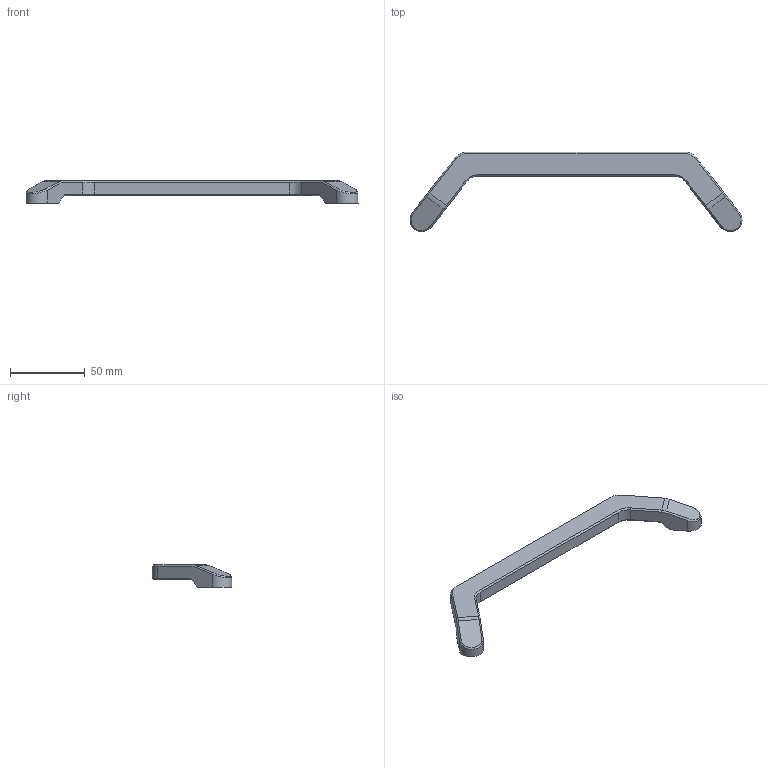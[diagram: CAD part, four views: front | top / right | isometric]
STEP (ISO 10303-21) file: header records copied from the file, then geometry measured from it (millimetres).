
FILE_DESCRIPTION(/* description */ ('STEP AP242','CAx-IF Rec.Pracs.---Representation and Presentation of Product Manufacturing Information (PMI)---4.0---2014-10-13','CAx-IF Rec.Pracs.---3D Tessellated Geometry---0.4---2014-09-14','2;1'),/* implementation_level */ '2;1');
FILE_NAME(/* name */ '687e6aa7f344454910d47bc7',/* time_stamp */ '2025-07-21T16:28:24Z',/* author */ (''),/* organization */ (''),/* preprocessor_version */ 'ST-DEVELOPER v20',/* originating_system */ 'ONSHAPE BY PTC INC, 1.201',/* authorisation */ ' ');
FILE_SCHEMA (('AP242_MANAGED_MODEL_BASED_3D_ENGINEERING_MIM_LF { 1 0 10303 442 1 1 4 }'));
Length unit declared in the file: metre
Products named in the file (1): Center Brace
Bounding box: 222.68 x 53.36 x 15 mm (x, y, z)
Volume: 41070.8 mm3; surface area: 13338.3 mm2
Topology: 1 solids, 1 shells, 56 faces, 128 edges, 76 vertices
Faces by surface type: plane 30, cone 14, cylinder 10, bspline 2
Full cylindrical faces by diameter (mm): 4.2 x2
Entity records: 1656 total; most frequent: CARTESIAN_POINT 399, DIRECTION 254, ORIENTED_EDGE 252, EDGE_CURVE 126, AXIS2_PLACEMENT_3D 89, VERTEX_POINT 76, LINE 76, VECTOR 76
